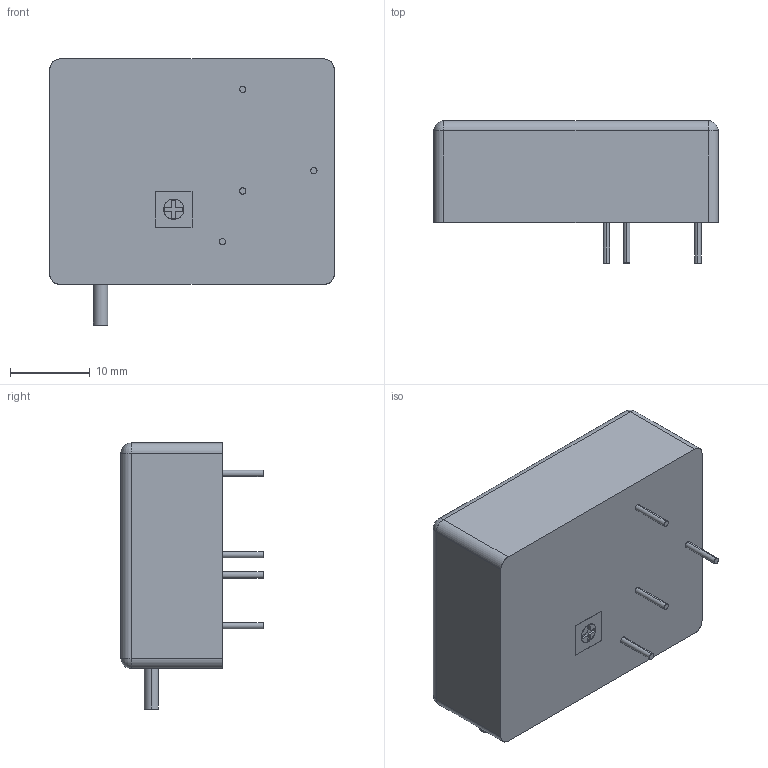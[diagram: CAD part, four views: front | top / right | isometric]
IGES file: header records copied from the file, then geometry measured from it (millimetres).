
Start section: SolidWorks IGES file using analytic representation for surfaces
Global section: file name: \\192.168.20.246\Eshare\SolidWorks (General)\Josh Moua\~XP EMCO 3D Models Redlines\C Series\4711CR - C Series\XP EMCO C01-C20 FL - 4711CR.IGS; native system: SolidWorks 2014; preprocessor: SolidWorks 2014; author: jmoua; date: 161003.114702; units: inch
Bounding box: 35.56 x 17.78 x 33.27 mm (x, y, z)
Surface area: 3606.7 mm2 (no closed solid volume)
Topology: 0 solids, 0 shells, 54 faces, 504 edges, 500 vertices
Faces by surface type: bspline 30, revolution 24
